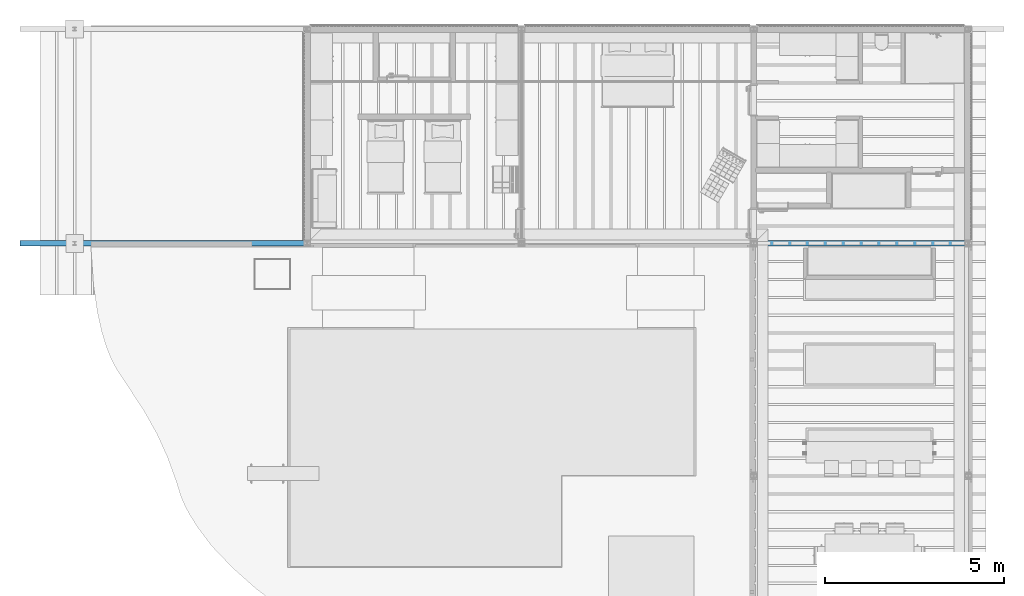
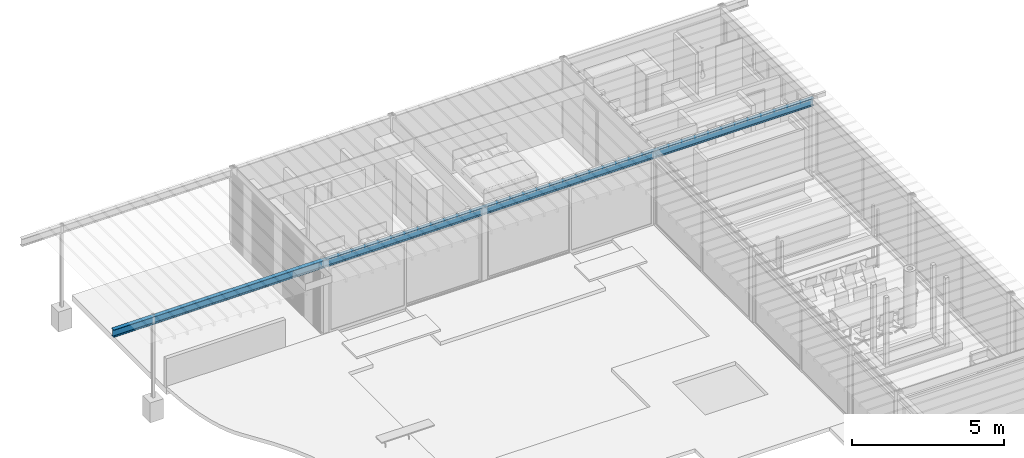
# One storey, part 9 of 28: 1 member.
"""IFC4X3_ADD2 building model written with IfcOpenShell, lengths in metres."""

from ifc_helpers import new_model, si_unit, direction, frame, frame_2d, origin_with_axes, place, context, subcontext, project, spatial, i_section, extrude, material, element, save


model = new_model("IFC4X3_ADD2")

# Units and contexts
model_context = context("Model", 3, precision=1e-05, world=origin_with_axes(), true_north=direction((0.0, 1.0)))
body_context = subcontext(model_context, "Body", "Model", "MODEL_VIEW")
ifc_project = project(units=[si_unit("LENGTHUNIT", "METRE"), si_unit("AREAUNIT", "SQUARE_METRE"), si_unit("VOLUMEUNIT", "CUBIC_METRE"), si_unit("PLANEANGLEUNIT", "RADIAN"), si_unit("TIMEUNIT", "SECOND"), si_unit("MASSUNIT", "GRAM")], contexts=[model_context])

# Site, building, storey
site_placement = place(None, origin_with_axes())
site = spatial("IfcSite", under=ifc_project, at=site_placement, Name="Site", CompositionType="ELEMENT")
building_placement = place(site_placement, origin_with_axes())
building = spatial("IfcBuilding", under=site, at=building_placement, Name="Default Building")
storey_placement = place(building_placement, frame((0.0, 0.0, -0.08), z_axis=(0.0, 0.0, 1.0), x_axis=(1.0, 0.0, 0.0)))
storey = spatial("IfcBuildingStorey", under=building, at=storey_placement, Name="Gruendung", Elevation=-0.08)

# Member
ifc_material = material(Name="Default")
member_placement = place(storey_placement, frame((25.0, 16.0, 2.98), z_axis=(-1.0, 0.0, 0.0), x_axis=(0.0, 1.0, 0.0)))
element("IfcMember", 1, at=member_placement, inside=storey, material=ifc_material, Name="Wide Flange", ObjectType="DIN - IPE 300", context=body_context, shape_type="SweptSolid", body=[
    extrude(i_section(OverallWidth=0.15, OverallDepth=0.3, WebThickness=0.007, FlangeThickness=0.011, FilletRadius=0.015, at=frame_2d((0.0, -0.15), x_axis=(1.0, 0.0))), frame((0.0, 0.3, 0.0), z_axis=(0.0, 0.0, 1.0), x_axis=(1.0, 0.0, 0.0)), (0.0, 0.0, 1.0), 26.53),
])

save(model, "model.ifc")
